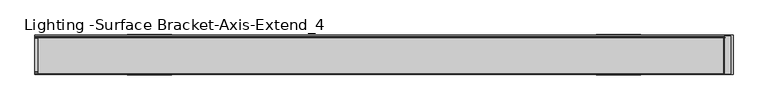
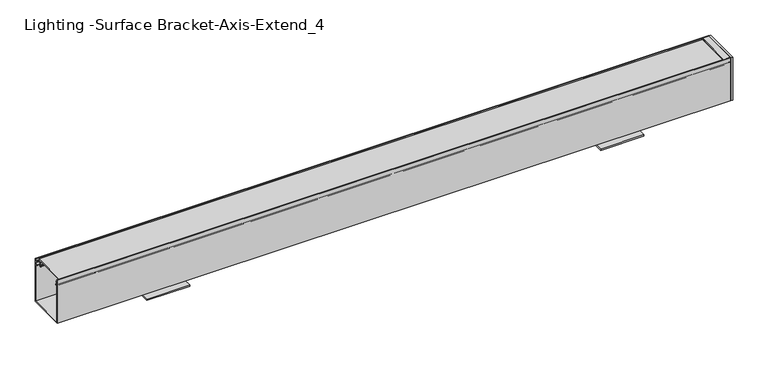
"""IFC4 building model written with IfcOpenShell, lengths in millimetres: light fixture geometry, Lighting -Surface Bracket-Axis-Extend_4 : EX4S-900-80-35-SO-4."""

from ifc_helpers import new_model, si_unit, point, frame, frame_2d, origin, place, context, project, spatial, polyline, circle_curve, trimmed, segment, composite_curve, outline, extrude, source, transform, mapped, element, save


def lighting_surface_bracket_axis_extend_4_d4e9c410(model_context):
    return source(origin(), model_context, "Body", "SweptSolid", [
        extrude(outline(polyline([(14.05509, 19.05), (70.87489, 19.05), (70.87489, 3.9878), (96.2749235, 3.9878), (96.2749235, 0.0), (-11.3449435, 0.0), (-11.3449435, 3.9878), (14.05509, 3.9878), (14.05509, 19.05)])), frame((272.3824767, 0.0, 0.0), z_axis=(1.0, 0.0, 0.0), x_axis=(0.0, 1.0, 0.0)), (0.0, 0.0, 1.0), 118.69928),
        extrude(outline(polyline([(14.05509, 19.05), (70.87489, 19.05), (70.87489, 3.9878), (96.2749235, 3.9878), (96.2749235, 0.0), (-11.3449435, 0.0), (-11.3449435, 3.9878), (14.05509, 3.9878), (14.05509, 19.05)])), frame((-977.3102233, 0.0, 0.0), z_axis=(1.0, 0.0, 0.0), x_axis=(0.0, 1.0, 0.0)), (0.0, 0.0, 1.0), 118.69928),
        extrude(outline(polyline([(142.7257861, 611.8687167), (141.25575, 611.8687167), (141.25575, 612.6624667), (142.0495, 612.6624667), (142.0495, 619.5141167), (139.2432981, 619.5141167), (139.2432981, 630.1821167), (143.8275, 630.1821167), (143.8275, 612.7932605), (142.7257861, 611.8687167)])), frame((0.0, -8.28802, 0.0), z_axis=(0.0, 1.0, 0.0), x_axis=(0.0, 0.0, 1.0)), (0.0, 0.0, 1.0), 101.50602),
        extrude(outline(polyline([(630.1821167, -10.32002), (630.1821167, 95.25), (636.5321167, 95.25), (636.5321167, -10.32002), (630.1821167, -10.32002)])), frame((0.0, 0.0, 19.05), z_axis=(0.0, 0.0, 1.0), x_axis=(1.0, 0.0, 0.0)), (0.0, 0.0, 1.0), 124.7775),
        extrude(outline(composite_curve([segment(polyline([(87.4187262, 139.0954791), (-2.4887462, 139.0954791), (-2.8274381, 132.6328537)]), True, "CONTINUOUS"), segment(trimmed(circle_curve(frame_2d((-5.57022, 129.63398)), 4.064), [point((-2.8274381, 132.6328537))], [point((-3.6979014, 126.0269703))], False, "CARTESIAN"), True, "CONTINUOUS"), segment(trimmed(circle_curve(frame_2d((-0.465364, 126.8158257)), 3.3274001), [point((-3.6979014, 126.0269703))], [point((-2.8826156, 124.5292375))], True, "CARTESIAN"), True, "CONTINUOUS"), segment(trimmed(circle_curve(frame_2d((4.5536623, 131.5635508)), 10.2362001), [point((-2.8826156, 124.5292375))], [point((-1.5279266, 123.3298355))], True, "CARTESIAN"), True, "CONTINUOUS"), segment(trimmed(circle_curve(frame_2d((-2.0183773, 122.6658262)), 0.8255), [point((-1.5279266, 123.3298355))], [point((-2.508828, 122.0018169))], False, "CARTESIAN"), True, "CONTINUOUS"), segment(trimmed(circle_curve(frame_2d((4.5536631, 131.5635517)), 11.8872013), [point((-2.508828, 122.0018169))], [point((-4.0820152, 123.3946708))], False, "CARTESIAN"), True, "CONTINUOUS"), segment(trimmed(circle_curve(frame_2d((-0.465364, 126.8158257)), 4.9784001), [point((-4.0820152, 123.3946708))], [point((-5.4269007, 127.22524))], False, "CARTESIAN"), True, "CONTINUOUS"), segment(trimmed(circle_curve(frame_2d((-5.57022, 129.63398)), 2.413), [point((-5.4269007, 127.22524))], [point((-3.7914141, 131.2644458))], True, "CARTESIAN"), True, "CONTINUOUS"), segment(trimmed(circle_curve(frame_2d((-1.9189869, 132.9807256)), 2.54), [point((-3.7914141, 131.2644458))], [point((-4.4555059, 133.1136589))], False, "CARTESIAN"), True, "CONTINUOUS"), segment(polyline([(-4.4555059, 133.1136589), (-4.142012, 139.0954791), (-7.14502, 139.0954791), (-7.14502, 141.00048), (92.075, 141.00048), (92.075, 139.0954791), (89.071992, 139.0954791), (89.3854859, 133.1136589)]), True, "CONTINUOUS"), segment(trimmed(circle_curve(frame_2d((86.8489669, 132.9807256)), 2.54), [point((89.3854859, 133.1136589))], [point((88.7213941, 131.2644458))], False, "CARTESIAN"), True, "CONTINUOUS"), segment(trimmed(circle_curve(frame_2d((90.5002, 129.63398)), 2.413), [point((88.7213941, 131.2644458))], [point((90.3568807, 127.22524))], True, "CARTESIAN"), True, "CONTINUOUS"), segment(trimmed(circle_curve(frame_2d((85.395344, 126.8158257)), 4.9784001), [point((90.3568807, 127.22524))], [point((89.0119952, 123.3946708))], False, "CARTESIAN"), True, "CONTINUOUS"), segment(trimmed(circle_curve(frame_2d((80.3763169, 131.5635517)), 11.8872013), [point((89.0119952, 123.3946708))], [point((87.438808, 122.0018169))], False, "CARTESIAN"), True, "CONTINUOUS"), segment(trimmed(circle_curve(frame_2d((86.9483573, 122.6658262)), 0.8255), [point((87.438808, 122.0018169))], [point((86.4579066, 123.3298355))], False, "CARTESIAN"), True, "CONTINUOUS"), segment(trimmed(circle_curve(frame_2d((80.3763177, 131.5635508)), 10.2362001), [point((86.4579066, 123.3298355))], [point((87.8125956, 124.5292375))], True, "CARTESIAN"), True, "CONTINUOUS"), segment(trimmed(circle_curve(frame_2d((85.395344, 126.8158257)), 3.3274001), [point((87.8125956, 124.5292375))], [point((88.6278814, 126.0269703))], True, "CARTESIAN"), True, "CONTINUOUS"), segment(trimmed(circle_curve(frame_2d((90.5002, 129.63398)), 4.064), [point((88.6278814, 126.0269703))], [point((87.7574181, 132.6328537))], False, "CARTESIAN"), True, "CONTINUOUS"), segment(polyline([(87.7574181, 132.6328537), (87.4187262, 139.0954791)]), True, "CONTINUOUS")], self_intersect=False)), frame((-1213.6038833, 0.0, 0.0), z_axis=(1.0, 0.0, 0.0), x_axis=(0.0, 1.0, 0.0)), (0.0, 0.0, 1.0), 1828.8),
        extrude(outline(composite_curve([segment(polyline([(93.218, 128.9177), (91.3785797, 128.9177)]), True, "CONTINUOUS"), segment(trimmed(circle_curve(frame_2d((89.8722297, 128.9177)), 1.5063501), [point((91.3785797, 128.9177))], [point((89.1190546, 127.6131626))], False, "CARTESIAN"), True, "CONTINUOUS"), segment(trimmed(circle_curve(frame_2d((90.3102121, 129.6763079)), 2.382315), [point((89.1190546, 127.6131626))], [point((87.9356516, 129.8683682))], False, "CARTESIAN"), True, "CONTINUOUS"), segment(polyline([(87.9356516, 129.8683682), (91.313, 132.7023), (91.313, 130.9497), (93.218, 130.9497), (93.218, 137.4775), (91.313, 137.4775), (91.313, 135.9535), (89.662, 136.0400252), (89.662, 138.7475), (93.218, 138.7475), (93.218, 143.8275), (95.25, 143.8275), (95.25, 19.05), (-10.32002, 19.05), (-10.32002, 143.8275), (-8.28802, 143.8275), (-8.28802, 138.7475), (-4.73202, 138.7475), (-4.73202, 136.0400252), (-6.38302, 135.9535), (-6.38302, 137.4775), (-8.28802, 137.4775), (-8.28802, 130.9497), (-6.38302, 130.9497), (-6.38302, 132.7023), (-3.0056716, 129.8683682)]), True, "CONTINUOUS"), segment(trimmed(circle_curve(frame_2d((-5.3802321, 129.6763079)), 2.382315), [point((-3.0056716, 129.8683682))], [point((-4.1890746, 127.6131626))], False, "CARTESIAN"), True, "CONTINUOUS"), segment(trimmed(circle_curve(frame_2d((-4.9422497, 128.9177)), 1.5063501), [point((-4.1890746, 127.6131626))], [point((-6.4485997, 128.9177))], False, "CARTESIAN"), True, "CONTINUOUS"), segment(polyline([(-6.4485997, 128.9177), (-8.28802, 128.9177), (-8.28802, 21.082), (93.218, 21.082), (93.218, 128.9177)]), True, "CONTINUOUS")], self_intersect=False)), frame((-1222.7605833, 0.0, 0.0), z_axis=(1.0, 0.0, 0.0), x_axis=(0.0, 1.0, 0.0)), (0.0, 0.0, 1.0), 1852.9427),
    ])


if __name__ == "__main__":
    model = new_model("IFC4")
    model_context = context("Model", 3, world=origin())
    ifc_project = project(units=[si_unit("LENGTHUNIT", "METRE", prefix="MILLI")], contexts=[model_context])
    site = spatial("IfcSite", under=ifc_project)
    building = spatial("IfcBuilding", under=site)
    placement = place(None, origin())
    lighting_surface_bracket_axis_extend_4_shape = lighting_surface_bracket_axis_extend_4_d4e9c410(model_context)
    element("IfcLightFixture", 1, ObjectType="Lighting -Surface Bracket-Axis-Extend_4 : EX4S-900-80-35-SO-4", at=placement, inside=building, context=model_context, shape_type="MappedRepresentation", body=[
        mapped(lighting_surface_bracket_axis_extend_4_shape, transform((0.0, 0.0, 0.0), x_axis=(1.0, 0.0, 0.0), y_axis=(0.0, 1.0, 0.0), z_axis=(0.0, 0.0, 1.0))),
    ])
    save(model, "model.ifc")
